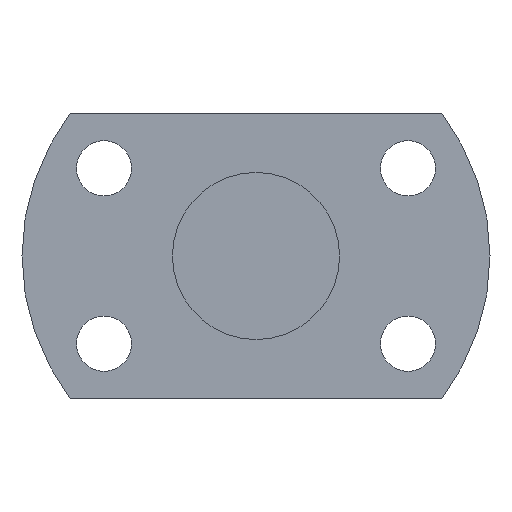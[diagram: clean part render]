
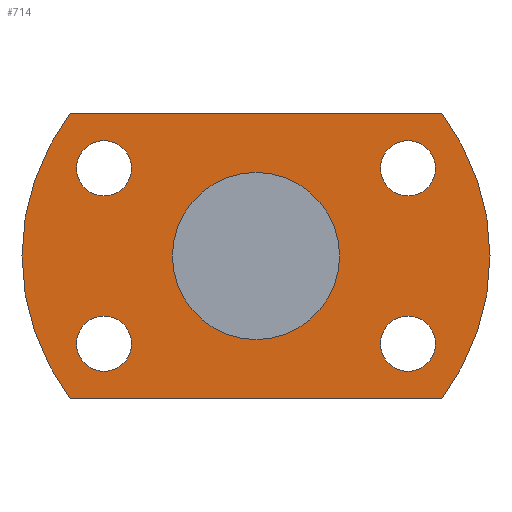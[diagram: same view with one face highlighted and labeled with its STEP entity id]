
A CAD part, left-side view. The second image highlights one B-rep face of the part: STEP entity #714.
In plain terms, the highlighted planar face has unit normal (-1, 0, 0).
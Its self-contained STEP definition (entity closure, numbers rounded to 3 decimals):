
#230=CARTESIAN_POINT('',(130.0,18.187,-7.2));
#231=VERTEX_POINT('',#230);
#232=CARTESIAN_POINT('',(130.0,18.187,-10.5));
#233=DIRECTION('',(1.0,0.0,0.0));
#234=DIRECTION('',(0.0,0.0,1.0));
#235=AXIS2_PLACEMENT_3D('',#232,#233,#234);
#236=CIRCLE('',#235,3.3);
#237=EDGE_CURVE('',#231,#231,#236,.T.);
#279=CARTESIAN_POINT('',(130.0,-18.187,13.8));
#280=VERTEX_POINT('',#279);
#281=CARTESIAN_POINT('',(130.0,-18.187,10.5));
#282=DIRECTION('',(1.0,0.0,0.0));
#283=DIRECTION('',(0.0,0.0,1.0));
#284=AXIS2_PLACEMENT_3D('',#281,#282,#283);
#285=CIRCLE('',#284,3.3);
#286=EDGE_CURVE('',#280,#280,#285,.T.);
#328=CARTESIAN_POINT('',(130.0,-18.187,-7.2));
#329=VERTEX_POINT('',#328);
#330=CARTESIAN_POINT('',(130.0,-18.187,-10.5));
#331=DIRECTION('',(1.0,0.0,0.0));
#332=DIRECTION('',(0.0,0.0,1.0));
#333=AXIS2_PLACEMENT_3D('',#330,#331,#332);
#334=CIRCLE('',#333,3.3);
#335=EDGE_CURVE('',#329,#329,#334,.T.);
#377=CARTESIAN_POINT('',(130.0,18.187,13.8));
#378=VERTEX_POINT('',#377);
#379=CARTESIAN_POINT('',(130.0,18.187,10.5));
#380=DIRECTION('',(1.0,0.0,0.0));
#381=DIRECTION('',(0.0,0.0,1.0));
#382=AXIS2_PLACEMENT_3D('',#379,#380,#381);
#383=CIRCLE('',#382,3.3);
#384=EDGE_CURVE('',#378,#378,#383,.T.);
#548=CARTESIAN_POINT('',(130.0,-22.249,-17.0));
#549=VERTEX_POINT('',#548);
#556=CARTESIAN_POINT('',(130.0,22.249,-17.0));
#557=VERTEX_POINT('',#556);
#558=CARTESIAN_POINT('',(130.0,22.249,-17.0));
#559=DIRECTION('',(0.0,-1.0,0.0));
#560=VECTOR('',#559,44.497);
#561=LINE('',#558,#560);
#562=EDGE_CURVE('',#557,#549,#561,.T.);
#579=CARTESIAN_POINT('',(130.0,-22.249,17.0));
#580=VERTEX_POINT('',#579);
#587=CARTESIAN_POINT('',(130.0,0.0,0.0));
#588=DIRECTION('',(-1.0,0.0,0.0));
#589=DIRECTION('',(0.0,0.0,1.0));
#590=AXIS2_PLACEMENT_3D('',#587,#588,#589);
#591=CIRCLE('',#590,28.);
#592=EDGE_CURVE('',#549,#580,#591,.T.);
#604=CARTESIAN_POINT('',(130.0,22.249,17.0));
#605=VERTEX_POINT('',#604);
#612=CARTESIAN_POINT('',(130.0,-22.249,17.0));
#613=DIRECTION('',(0.0,1.0,0.0));
#614=VECTOR('',#613,44.497);
#615=LINE('',#612,#614);
#616=EDGE_CURVE('',#580,#605,#615,.T.);
#629=CARTESIAN_POINT('',(130.0,0.0,0.0));
#630=DIRECTION('',(-1.0,0.0,0.0));
#631=DIRECTION('',(0.0,0.0,1.0));
#632=AXIS2_PLACEMENT_3D('',#629,#630,#631);
#633=CIRCLE('',#632,28.);
#634=EDGE_CURVE('',#605,#557,#633,.T.);
#680=CARTESIAN_POINT('',(130.0,0.0,13.));
#681=DIRECTION('',(-1.0,0.0,0.0));
#682=DIRECTION('',(0.0,0.0,1.0));
#683=AXIS2_PLACEMENT_3D('',#680,#681,#682);
#684=PLANE('',#683);
#685=ORIENTED_EDGE('',*,*,#634,.T.);
#686=ORIENTED_EDGE('',*,*,#562,.T.);
#687=ORIENTED_EDGE('',*,*,#592,.T.);
#688=ORIENTED_EDGE('',*,*,#616,.T.);
#689=EDGE_LOOP('',(#685,#686,#687,#688));
#690=FACE_OUTER_BOUND('',#689,.T.);
#691=ORIENTED_EDGE('',*,*,#237,.T.);
#692=EDGE_LOOP('',(#691));
#693=FACE_BOUND('',#692,.T.);
#694=ORIENTED_EDGE('',*,*,#286,.T.);
#695=EDGE_LOOP('',(#694));
#696=FACE_BOUND('',#695,.T.);
#697=ORIENTED_EDGE('',*,*,#335,.T.);
#698=EDGE_LOOP('',(#697));
#699=FACE_BOUND('',#698,.T.);
#700=ORIENTED_EDGE('',*,*,#384,.T.);
#701=EDGE_LOOP('',(#700));
#702=FACE_BOUND('',#701,.T.);
#703=CARTESIAN_POINT('',(130.0,0.0,10.));
#704=VERTEX_POINT('',#703);
#705=CARTESIAN_POINT('',(130.0,0.0,0.0));
#706=DIRECTION('',(-1.0,0.0,0.0));
#707=DIRECTION('',(0.0,0.0,1.0));
#708=AXIS2_PLACEMENT_3D('',#705,#706,#707);
#709=CIRCLE('',#708,10.);
#710=EDGE_CURVE('',#704,#704,#709,.T.);
#711=ORIENTED_EDGE('',*,*,#710,.F.);
#712=EDGE_LOOP('',(#711));
#713=FACE_BOUND('',#712,.T.);
#714=ADVANCED_FACE('',(#690,#693,#696,#699,#702,#713),#684,.T.);
